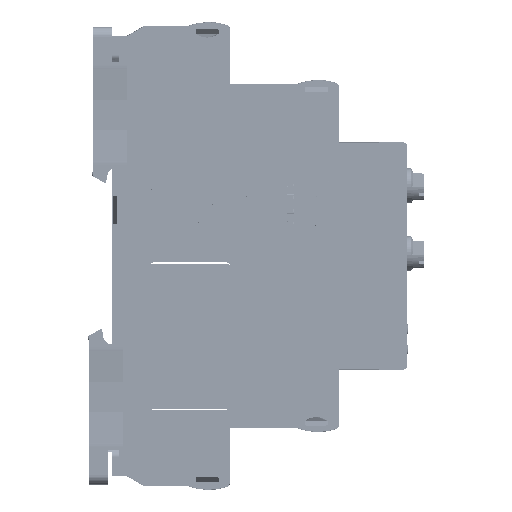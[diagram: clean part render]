
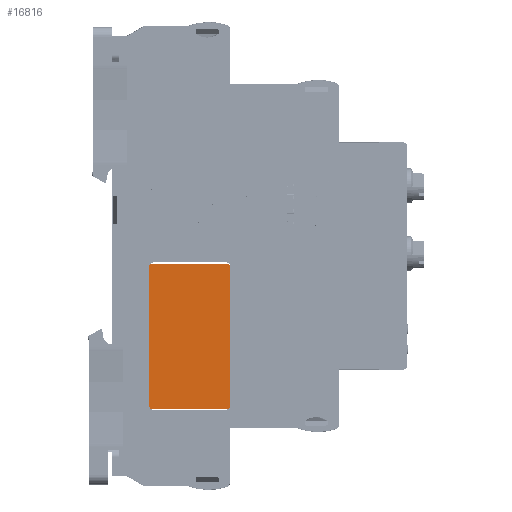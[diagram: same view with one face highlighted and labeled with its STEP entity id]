
A CAD part, front view. The second image highlights one B-rep face of the part: STEP entity #16816.
In plain terms, the highlighted planar face has unit normal (0, -1, 0).
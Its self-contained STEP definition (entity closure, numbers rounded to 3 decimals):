
#16816=ADVANCED_FACE('',(#191399),#191401,.F.);
#191399=FACE_BOUND('',#191400,.T.);
#191400=EDGE_LOOP('',(#323486,#323487,#323488,#323489,#323490,#323491,#323492,#323493));
#191401=PLANE('',#191402);
#191402=AXIS2_PLACEMENT_3D('',#191403,#191404,#191405);
#191403=CARTESIAN_POINT('',(0.,0.,0.));
#191404=DIRECTION('',(0.,1.,0.));
#191405=DIRECTION('',(-1.,0.,0.));
#323486=ORIENTED_EDGE('',*,*,#454581,.F.);
#323487=ORIENTED_EDGE('',*,*,#454572,.F.);
#323488=ORIENTED_EDGE('',*,*,#454582,.F.);
#323489=ORIENTED_EDGE('',*,*,#454568,.F.);
#323490=ORIENTED_EDGE('',*,*,#454583,.F.);
#323491=ORIENTED_EDGE('',*,*,#454562,.F.);
#323492=ORIENTED_EDGE('',*,*,#454584,.F.);
#323493=ORIENTED_EDGE('',*,*,#454574,.F.);
#454562=EDGE_CURVE('',#512232,#512235,#512236,.T.);
#454568=EDGE_CURVE('',#512245,#512240,#512247,.T.);
#454572=EDGE_CURVE('',#512253,#512248,#512255,.T.);
#454574=EDGE_CURVE('',#512256,#512259,#512260,.T.);
#454581=EDGE_CURVE('',#512248,#512256,#512268,.F.);
#454582=EDGE_CURVE('',#512240,#512253,#512269,.F.);
#454583=EDGE_CURVE('',#512235,#512245,#512270,.F.);
#454584=EDGE_CURVE('',#512259,#512232,#512271,.F.);
#512232=VERTEX_POINT('',#611752);
#512235=VERTEX_POINT('',#611757);
#512236=LINE('',#611758,#611759);
#512240=VERTEX_POINT('',#611768);
#512245=VERTEX_POINT('',#611777);
#512247=LINE('',#611781,#611782);
#512248=VERTEX_POINT('',#611784);
#512253=VERTEX_POINT('',#611793);
#512255=LINE('',#611797,#611798);
#512256=VERTEX_POINT('',#611800);
#512259=VERTEX_POINT('',#611805);
#512260=LINE('',#611806,#611807);
#512268=CIRCLE('',#611832,0.4);
#512269=CIRCLE('',#611836,0.4);
#512270=CIRCLE('',#611840,0.4);
#512271=CIRCLE('',#611844,0.4);
#611752=CARTESIAN_POINT('',(-7.6,0.,14.4));
#611757=CARTESIAN_POINT('',(7.6,0.,14.4));
#611758=CARTESIAN_POINT('',(-7.6,0.,14.4));
#611759=VECTOR('',#611760,1.);
#611760=DIRECTION('',(1.,0.,0.));
#611768=CARTESIAN_POINT('',(8.,0.,-14.));
#611777=CARTESIAN_POINT('',(8.,0.,14.));
#611781=CARTESIAN_POINT('',(8.,0.,14.));
#611782=VECTOR('',#611783,1.);
#611783=DIRECTION('',(0.,0.,-1.));
#611784=CARTESIAN_POINT('',(-7.6,0.,-14.4));
#611793=CARTESIAN_POINT('',(7.6,0.,-14.4));
#611797=CARTESIAN_POINT('',(7.6,0.,-14.4));
#611798=VECTOR('',#611799,1.);
#611799=DIRECTION('',(-1.,0.,0.));
#611800=CARTESIAN_POINT('',(-8.,0.,-14.));
#611805=CARTESIAN_POINT('',(-8.,0.,14.));
#611806=CARTESIAN_POINT('',(-8.,0.,-14.));
#611807=VECTOR('',#611808,1.);
#611808=DIRECTION('',(0.,0.,1.));
#611832=AXIS2_PLACEMENT_3D('',#611833,#611834,#611835);
#611833=CARTESIAN_POINT('',(-7.6,0.,-14.));
#611834=DIRECTION('',(0.,-1.,0.));
#611835=DIRECTION('',(-1.,0.,0.));
#611836=AXIS2_PLACEMENT_3D('',#611837,#611838,#611839);
#611837=CARTESIAN_POINT('',(7.6,0.,-14.));
#611838=DIRECTION('',(0.,-1.,0.));
#611839=DIRECTION('',(0.,0.,-1.));
#611840=AXIS2_PLACEMENT_3D('',#611841,#611842,#611843);
#611841=CARTESIAN_POINT('',(7.6,0.,14.));
#611842=DIRECTION('',(0.,-1.,0.));
#611843=DIRECTION('',(1.,0.,0.));
#611844=AXIS2_PLACEMENT_3D('',#611845,#611846,#611847);
#611845=CARTESIAN_POINT('',(-7.6,0.,14.));
#611846=DIRECTION('',(0.,-1.,0.));
#611847=DIRECTION('',(0.,0.,1.));
